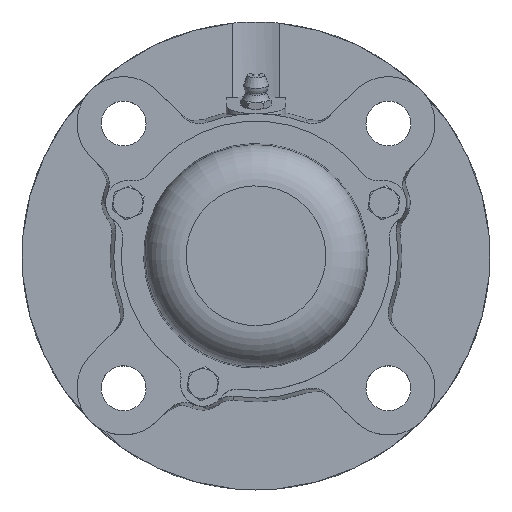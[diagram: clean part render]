
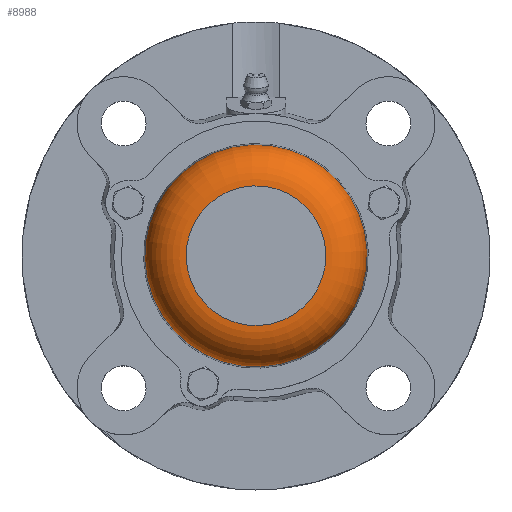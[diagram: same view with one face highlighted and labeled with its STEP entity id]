
A CAD part, top view. The second image highlights one B-rep face of the part: STEP entity #8988.
In plain terms, the highlighted toroidal (fillet/blend) face has major radius 18.666 mm and minor radius 11 mm.
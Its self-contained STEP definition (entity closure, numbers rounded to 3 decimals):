
#8961=CARTESIAN_POINT('',(0.0,0.0,11.));
#8962=DIRECTION('',(0.0,0.0,-1.0));
#8963=DIRECTION('',(-1.0,0.0,0.0));
#8964=AXIS2_PLACEMENT_3D('',#8961,#8962,#8963);
#8965=TOROIDAL_SURFACE('',#8964,18.666,11.0);
#8966=CARTESIAN_POINT('',(-18.666,0.0,22.0));
#8967=VERTEX_POINT('',#8966);
#8968=CARTESIAN_POINT('',(0.0,0.0,22.0));
#8969=DIRECTION('',(0.0,0.0,-1.0));
#8970=DIRECTION('',(1.0,0.0,0.0));
#8971=AXIS2_PLACEMENT_3D('',#8968,#8969,#8970);
#8972=CIRCLE('',#8971,18.666);
#8973=EDGE_CURVE('',#8967,#8967,#8972,.T.);
#8974=ORIENTED_EDGE('',*,*,#8973,.T.);
#8975=EDGE_LOOP('',(#8974));
#8976=FACE_OUTER_BOUND('',#8975,.T.);
#8977=CARTESIAN_POINT('',(-29.645,0.,11.686));
#8978=VERTEX_POINT('',#8977);
#8979=CARTESIAN_POINT('',(0.0,0.,11.686));
#8980=DIRECTION('',(0.0,0.0,1.0));
#8981=DIRECTION('',(1.0,0.0,0.0));
#8982=AXIS2_PLACEMENT_3D('',#8979,#8980,#8981);
#8983=CIRCLE('',#8982,29.645);
#8984=EDGE_CURVE('',#8978,#8978,#8983,.T.);
#8985=ORIENTED_EDGE('',*,*,#8984,.T.);
#8986=EDGE_LOOP('',(#8985));
#8987=FACE_BOUND('',#8986,.T.);
#8988=ADVANCED_FACE('',(#8976,#8987),#8965,.T.);
